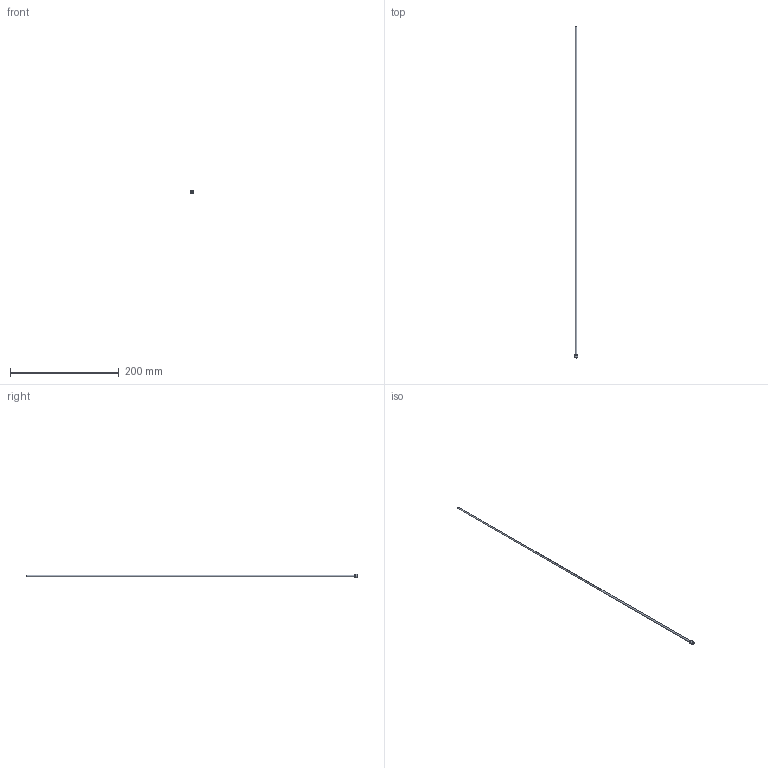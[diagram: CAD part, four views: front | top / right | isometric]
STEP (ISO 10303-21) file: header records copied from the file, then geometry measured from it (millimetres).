
FILE_DESCRIPTION(/* description */ (''),/* implementation_level */ '2;1');
FILE_NAME(/* name */ 'C:/Users/drich/Desktop/JHF125T-24 v1.step',/* time_stamp */ '2020-01-02T20:03:00-06:00',/* author */ (''),/* organization */ (''),/* preprocessor_version */ 'ST-DEVELOPER v18',/* originating_system */ 'Autodesk Translation Framework v8.12.0.6',/* authorisation */ '');
FILE_SCHEMA (('AUTOMOTIVE_DESIGN { 1 0 10303 214 3 1 1 }'));
Length unit declared in the file: inch
Products named in the file (1): JHF125T-24
Bounding box: 6.4 x 609.6 x 6.4 mm (x, y, z)
Volume: 1301.4 mm3; surface area: 11489.3 mm2
Topology: 1 solids, 1 shells, 10 faces, 24 edges, 18 vertices
Faces by surface type: cylinder 4, plane 4, cone 1, torus 1
Full cylindrical faces by diameter (mm): 2.769 x1, 3.175 x1, 6.269 x1, 6.401 x1
Entity records: 354 total; most frequent: DIRECTION 65, CARTESIAN_POINT 53, ORIENTED_EDGE 48, AXIS2_PLACEMENT_3D 30, EDGE_CURVE 24, CIRCLE 19, VERTEX_POINT 18, EDGE_LOOP 14
